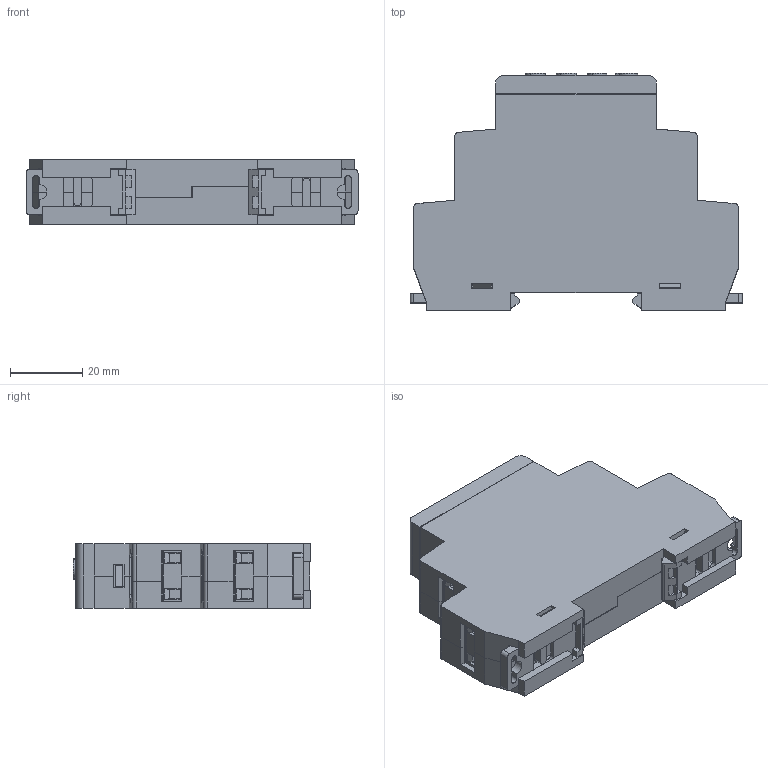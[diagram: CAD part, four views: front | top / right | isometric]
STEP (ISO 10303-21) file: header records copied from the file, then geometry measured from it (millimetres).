
FILE_DESCRIPTION (( 'STEP AP214' ), '1' );
FILE_NAME ('RS-MV37DP軞蚾.STEP', '2025-03-14T12:12:35', ( 'cjie1981@hotmail.com' ), ( 'HP Inc.' ), 'SwSTEP 2.0', 'SolidWorks 2022', '' );
FILE_SCHEMA (( 'AUTOMOTIVE_DESIGN' ));
Length unit declared in the file: millimetre
Products named in the file (17): RD-TP止动件8KD.271.001; KF128-5.0-3P; RD-MV导光柱8KD.049.001; RS-MV37DP总装; RS-MV37DP盖5KD.315.016; 继电器板组合; RS-TM外壳8KD.005.002; KF128-5.0-3PT; 电子组件板; RS-MVD继电器板6KD.599.036; 电源板组合; RS-TM旋钮8KD.253.001; CA9H2,5; 控制板组合; RS-MVD电源板6KD.599.034; RS-MVD控制板6KD.599.032
Assembly tree (28 placements, depth 4):
  RS-MV37DP总装
    RS-TM外壳8KD.005.002
    电子组件板
      控制板组合
        RS-MVD控制板6KD.599.032
        CA9H2,5  x4
      电源板组合
        RS-MVD电源板6KD.599.034
        KF128-5.0-3PT
        KF128-5.0-3P
    RS-TM外壳8KD.005.002
    RD-TP止动件8KD.271.001  x2
    RS-TM旋钮8KD.253.001  x4
    RS-MV37DP盖5KD.315.016
    RD-MV导光柱8KD.049.001  x4
    继电器板组合
      RS-MVD继电器板6KD.599.036
      KF128-5.0-3P
      KF128-5.0-3PT
Bounding box: 91.8 x 65.61 x 17.8 mm (x, y, z)
Volume: 44178 mm3; surface area: 51255.4 mm2
Topology: 24 solids, 24 shells, 2112 faces, 5675 edges, 3718 vertices
Faces by surface type: plane 1698, cylinder 274, bspline 80, torus 32, cone 28
Entity records: 53955 total; most frequent: CARTESIAN_POINT 13107, ORIENTED_EDGE 8050, DIRECTION 7075, EDGE_CURVE 4025, LINE 3419, VECTOR 3419, VERTEX_POINT 2648, AXIS2_PLACEMENT_3D 1828
